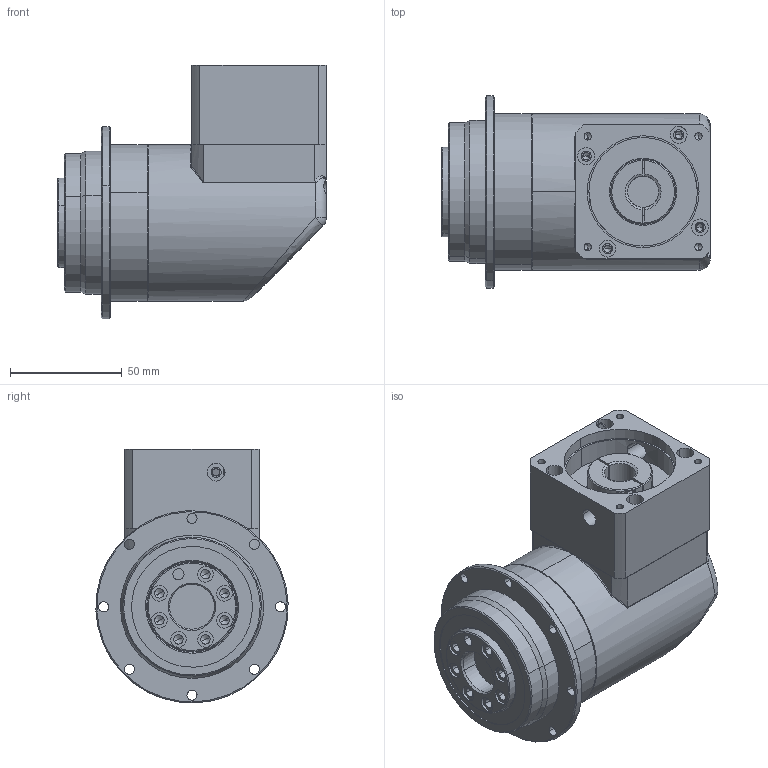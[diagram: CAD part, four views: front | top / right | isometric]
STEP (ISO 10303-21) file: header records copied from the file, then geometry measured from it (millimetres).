
FILE_DESCRIPTION (( 'STEP AP203' ), '1' );
FILE_NAME ('PLMX60-L1.STEP', '2024-11-07T03:15:07', ( '' ), ( '' ), 'SwSTEP 2.0', 'SolidWorks 2020', '' );
FILE_SCHEMA (( 'CONFIG_CONTROL_DESIGN' ));
Length unit declared in the file: millimetre
Products named in the file (7): ZPWE60______ .STEP; ZPWE60-L1.STEP; ZPF60______.STEP; ZPF60__________.STEP; PLMX60-L1; PWE60-________.STEP; ZPWE60-XT02.STEP
Assembly tree (6 placements, depth 3):
  PLMX60-L1
    ZPWE60-L1.STEP
      PWE60-________.STEP
      ZPWE60-XT02.STEP
      ZPF60__________.STEP
      ZPF60______.STEP
      ZPWE60______ .STEP
Bounding box: 120 x 85.92 x 113.46 mm (x, y, z)
Volume: 477973.9 mm3; surface area: 98851.4 mm2
Topology: 5 solids, 5 shells, 811 faces, 2100 edges, 1362 vertices
Faces by surface type: plane 439, cylinder 191, bspline 119, cone 54, torus 6, sphere 2
Entity records: 32597 total; most frequent: CARTESIAN_POINT 12643, ORIENTED_EDGE 4132, DIRECTION 3600, EDGE_CURVE 2066, VERTEX_POINT 1362, LINE 1346, VECTOR 1346, AXIS2_PLACEMENT_3D 1127
